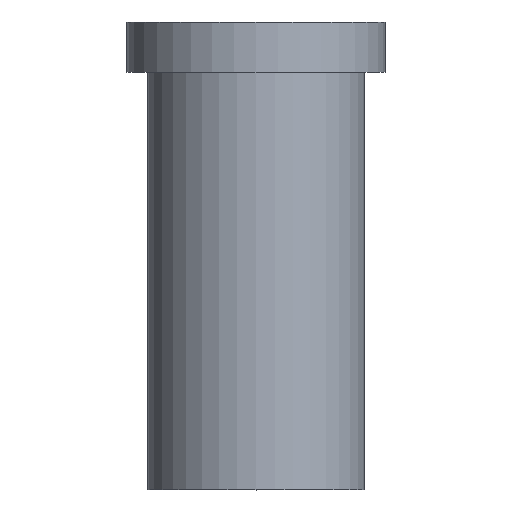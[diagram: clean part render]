
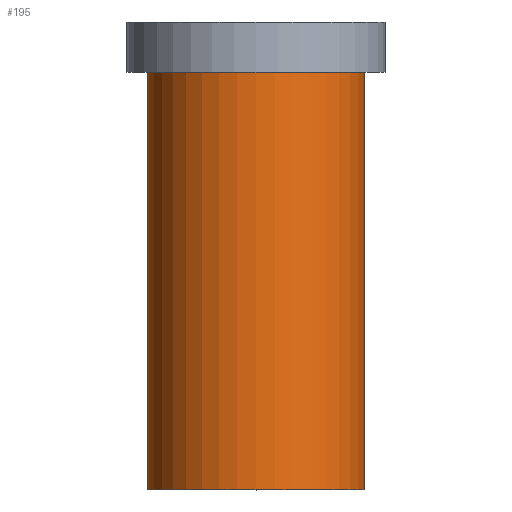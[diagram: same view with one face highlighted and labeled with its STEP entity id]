
A CAD part, top view. The second image highlights one B-rep face of the part: STEP entity #195.
In plain terms, the highlighted cylindrical face has radius 13 mm (diameter 26 mm), a full revolution.
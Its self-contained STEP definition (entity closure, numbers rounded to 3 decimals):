
#32=ORIENTED_EDGE('',*,*,#50,.T.);
#33=ORIENTED_EDGE('',*,*,#49,.F.);
#49=EDGE_CURVE('',#59,#59,#69,.T.);
#50=EDGE_CURVE('',#60,#60,#70,.T.);
#59=VERTEX_POINT('',#280);
#60=VERTEX_POINT('',#283);
#69=CIRCLE('',#213,13.);
#70=CIRCLE('',#215,13.);
#82=EDGE_LOOP('',(#32));
#83=EDGE_LOOP('',(#33));
#102=FACE_BOUND('',#82,.T.);
#103=FACE_BOUND('',#83,.T.);
#117=CYLINDRICAL_SURFACE('',#214,13.);
#195=ADVANCED_FACE('',(#102,#103),#117,.T.);
#213=AXIS2_PLACEMENT_3D('',#279,#241,#242);
#214=AXIS2_PLACEMENT_3D('',#281,#243,#244);
#215=AXIS2_PLACEMENT_3D('',#282,#245,#246);
#241=DIRECTION('',(0.,-1.,0.));
#242=DIRECTION('',(0.,0.,-1.));
#243=DIRECTION('',(0.,-1.,0.));
#244=DIRECTION('',(0.,0.,-1.));
#245=DIRECTION('',(0.,-1.,0.));
#246=DIRECTION('',(0.,0.,-1.));
#279=CARTESIAN_POINT('',(0.,0.,0.));
#280=CARTESIAN_POINT('',(0.,0.,-13.));
#281=CARTESIAN_POINT('',(0.,0.,0.));
#282=CARTESIAN_POINT('',(0.,50.,0.));
#283=CARTESIAN_POINT('',(0.,50.,-13.));
